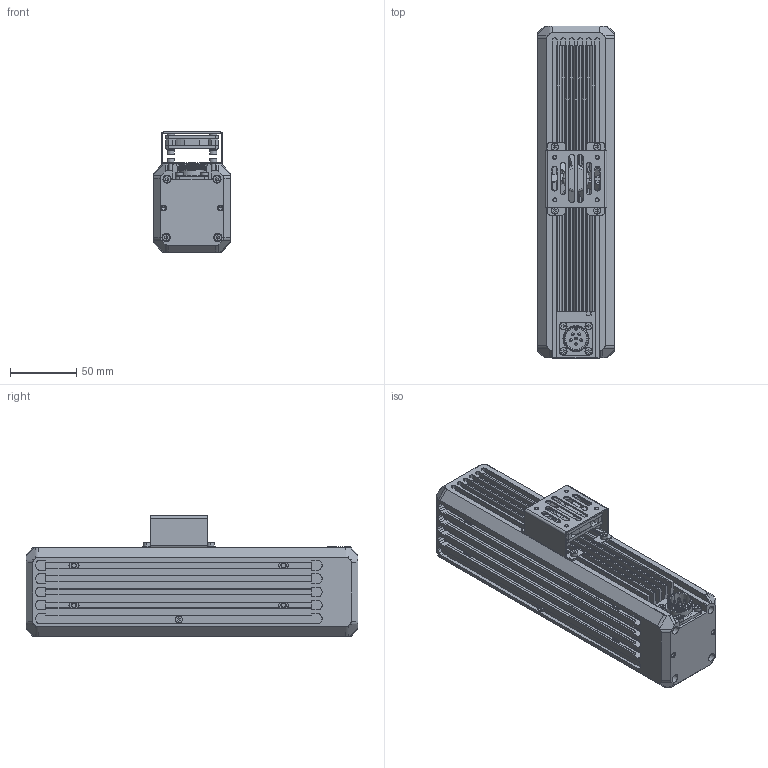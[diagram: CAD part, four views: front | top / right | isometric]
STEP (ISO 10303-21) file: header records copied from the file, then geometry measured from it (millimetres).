
FILE_DESCRIPTION((''),'2;1');
FILE_NAME('PRT0002','2022-09-02T15:28:40',('huguozhe'),(''),'CREO PARAMETRIC BY PTC INC, 2020044','CREO PARAMETRIC BY PTC INC, 2020044','');
FILE_SCHEMA(('AUTOMOTIVE_DESIGN { 1 0 10303 214 1 1 1 1 }'));
Products named in the file (1): PRT0002
Bounding box: 58 x 250 x 90.6 mm (x, y, z)
Volume: 681842.8 mm3; surface area: 197050.6 mm2
Topology: 1 solids, 117 shells, 2459 faces, 6344 edges, 3942 vertices
Faces by surface type: plane 1188, cylinder 799, cone 332, torus 110, bspline 30
Entity records: 87586 total; most frequent: CARTESIAN_POINT 17893, DIRECTION 12951, ORIENTED_EDGE 12132, EDGE_CURVE 6208, AXIS2_PLACEMENT_3D 4843, VERTEX_POINT 3942, VECTOR 3265, LINE 3265
